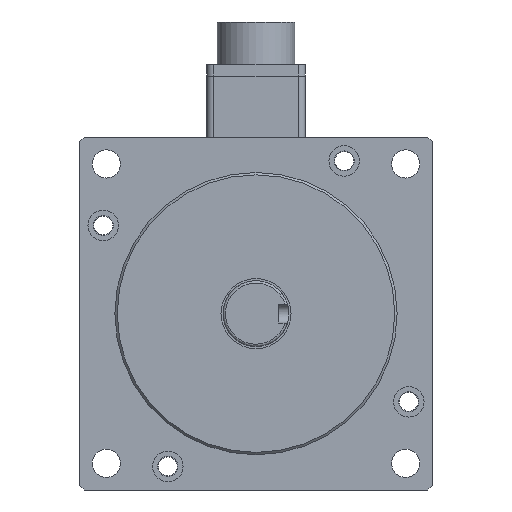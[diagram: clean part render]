
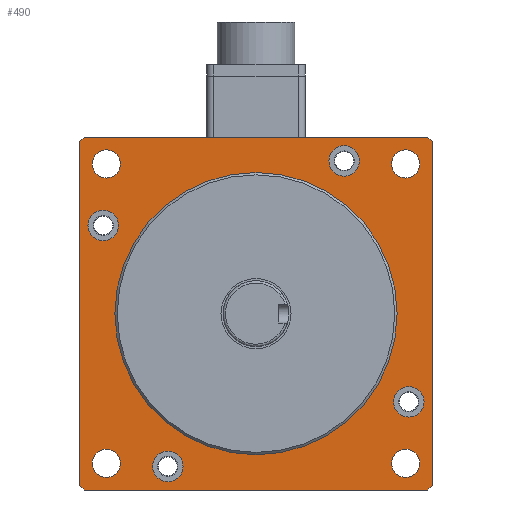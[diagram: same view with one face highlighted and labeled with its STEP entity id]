
A CAD part, front view. The second image highlights one B-rep face of the part: STEP entity #490.
In plain terms, the highlighted planar face has unit normal (0, -1, 0).
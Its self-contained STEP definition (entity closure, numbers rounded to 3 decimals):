
#83=FACE_BOUND('',#847,.T.);
#84=FACE_BOUND('',#848,.T.);
#85=FACE_BOUND('',#849,.T.);
#86=FACE_BOUND('',#850,.T.);
#87=FACE_BOUND('',#851,.T.);
#88=FACE_BOUND('',#852,.T.);
#89=FACE_BOUND('',#853,.T.);
#90=FACE_BOUND('',#854,.T.);
#91=FACE_BOUND('',#855,.T.);
#92=FACE_BOUND('',#856,.T.);
#340=CIRCLE('',#2864,6.);
#341=CIRCLE('',#2866,6.);
#342=CIRCLE('',#2868,6.);
#343=CIRCLE('',#2870,6.);
#346=CIRCLE('',#2875,60.);
#347=CIRCLE('',#2877,6.5);
#348=CIRCLE('',#2878,6.5);
#349=CIRCLE('',#2879,6.5);
#350=CIRCLE('',#2880,6.5);
#490=ADVANCED_FACE('',(#83,#84,#85,#86,#87,#88,#89,#90,#91,#92),#601,.T.);
#601=PLANE('',#2881);
#847=EDGE_LOOP('',(#1371));
#848=EDGE_LOOP('',(#1372));
#849=EDGE_LOOP('',(#1373));
#850=EDGE_LOOP('',(#1374));
#851=EDGE_LOOP('',(#1375));
#852=EDGE_LOOP('',(#1376));
#853=EDGE_LOOP('',(#1377));
#854=EDGE_LOOP('',(#1378));
#855=EDGE_LOOP('',(#1379));
#856=EDGE_LOOP('',(#1380,#1381,#1382,#1383,#1384,#1385,#1386,#1387));
#1371=ORIENTED_EDGE('',*,*,#2137,.T.);
#1372=ORIENTED_EDGE('',*,*,#2138,.T.);
#1373=ORIENTED_EDGE('',*,*,#2139,.T.);
#1374=ORIENTED_EDGE('',*,*,#2140,.T.);
#1375=ORIENTED_EDGE('',*,*,#2133,.T.);
#1376=ORIENTED_EDGE('',*,*,#2132,.T.);
#1377=ORIENTED_EDGE('',*,*,#2131,.T.);
#1378=ORIENTED_EDGE('',*,*,#2130,.T.);
#1379=ORIENTED_EDGE('',*,*,#2136,.T.);
#1380=ORIENTED_EDGE('',*,*,#2074,.F.);
#1381=ORIENTED_EDGE('',*,*,#2129,.T.);
#1382=ORIENTED_EDGE('',*,*,#2081,.F.);
#1383=ORIENTED_EDGE('',*,*,#2126,.T.);
#1384=ORIENTED_EDGE('',*,*,#2064,.F.);
#1385=ORIENTED_EDGE('',*,*,#2127,.T.);
#1386=ORIENTED_EDGE('',*,*,#2100,.F.);
#1387=ORIENTED_EDGE('',*,*,#2128,.T.);
#1775=VERTEX_POINT('',#4104);
#1776=VERTEX_POINT('',#4106);
#1783=VERTEX_POINT('',#4124);
#1784=VERTEX_POINT('',#4126);
#1789=VERTEX_POINT('',#4138);
#1790=VERTEX_POINT('',#4140);
#1803=VERTEX_POINT('',#4176);
#1804=VERTEX_POINT('',#4178);
#1812=VERTEX_POINT('',#4237);
#1813=VERTEX_POINT('',#4240);
#1814=VERTEX_POINT('',#4243);
#1815=VERTEX_POINT('',#4246);
#1818=VERTEX_POINT('',#4254);
#1819=VERTEX_POINT('',#4257);
#1820=VERTEX_POINT('',#4259);
#1821=VERTEX_POINT('',#4261);
#1822=VERTEX_POINT('',#4263);
#2064=EDGE_CURVE('',#1775,#1776,#2381,.T.);
#2074=EDGE_CURVE('',#1783,#1784,#2391,.T.);
#2081=EDGE_CURVE('',#1789,#1790,#2398,.T.);
#2100=EDGE_CURVE('',#1803,#1804,#2417,.T.);
#2126=EDGE_CURVE('',#1789,#1776,#2427,.T.);
#2127=EDGE_CURVE('',#1775,#1804,#2428,.T.);
#2128=EDGE_CURVE('',#1803,#1784,#2429,.T.);
#2129=EDGE_CURVE('',#1783,#1790,#2430,.T.);
#2130=EDGE_CURVE('',#1812,#1812,#340,.T.);
#2131=EDGE_CURVE('',#1813,#1813,#341,.T.);
#2132=EDGE_CURVE('',#1814,#1814,#342,.T.);
#2133=EDGE_CURVE('',#1815,#1815,#343,.T.);
#2136=EDGE_CURVE('',#1818,#1818,#346,.T.);
#2137=EDGE_CURVE('',#1819,#1819,#347,.T.);
#2138=EDGE_CURVE('',#1820,#1820,#348,.T.);
#2139=EDGE_CURVE('',#1821,#1821,#349,.T.);
#2140=EDGE_CURVE('',#1822,#1822,#350,.T.);
#2381=LINE('',#4105,#2591);
#2391=LINE('',#4125,#2601);
#2398=LINE('',#4139,#2608);
#2417=LINE('',#4177,#2627);
#2427=LINE('',#4228,#2637);
#2428=LINE('',#4230,#2638);
#2429=LINE('',#4232,#2639);
#2430=LINE('',#4234,#2640);
#2591=VECTOR('',#3304,1.);
#2601=VECTOR('',#3318,1.);
#2608=VECTOR('',#3327,1.);
#2627=VECTOR('',#3356,1.);
#2637=VECTOR('',#3432,1.);
#2638=VECTOR('',#3435,1.);
#2639=VECTOR('',#3438,1.);
#2640=VECTOR('',#3441,1.);
#2864=AXIS2_PLACEMENT_3D('',#4236,#3444,#3445);
#2866=AXIS2_PLACEMENT_3D('',#4239,#3448,#3449);
#2868=AXIS2_PLACEMENT_3D('',#4242,#3452,#3453);
#2870=AXIS2_PLACEMENT_3D('',#4245,#3456,#3457);
#2875=AXIS2_PLACEMENT_3D('',#4253,#3466,#3467);
#2877=AXIS2_PLACEMENT_3D('',#4256,#3470,#3471);
#2878=AXIS2_PLACEMENT_3D('',#4258,#3472,#3473);
#2879=AXIS2_PLACEMENT_3D('',#4260,#3474,#3475);
#2880=AXIS2_PLACEMENT_3D('',#4262,#3476,#3477);
#2881=AXIS2_PLACEMENT_3D('',#4264,#3478,#3479);
#3304=DIRECTION('',(0.,0.,1.));
#3318=DIRECTION('',(0.,0.,-1.));
#3327=DIRECTION('',(1.,0.,0.));
#3356=DIRECTION('',(-1.,0.,0.));
#3432=DIRECTION('',(-0.707,0.,-0.707));
#3435=DIRECTION('',(0.707,0.,-0.707));
#3438=DIRECTION('',(0.707,0.,0.707));
#3441=DIRECTION('',(-0.707,0.,0.707));
#3444=DIRECTION('',(0.,1.,0.));
#3445=DIRECTION('',(-1.,0.,0.));
#3448=DIRECTION('',(0.,1.,0.));
#3449=DIRECTION('',(0.,0.,1.));
#3452=DIRECTION('',(0.,1.,0.));
#3453=DIRECTION('',(1.,0.,0.));
#3456=DIRECTION('',(0.,1.,0.));
#3457=DIRECTION('',(0.,0.,-1.));
#3466=DIRECTION('',(0.,1.,0.));
#3467=DIRECTION('',(1.,0.,0.));
#3470=DIRECTION('',(0.,1.,0.));
#3471=DIRECTION('',(-1.,0.,0.));
#3472=DIRECTION('',(0.,1.,0.));
#3473=DIRECTION('',(0.,0.,1.));
#3474=DIRECTION('',(0.,1.,0.));
#3475=DIRECTION('',(1.,0.,0.));
#3476=DIRECTION('',(0.,1.,0.));
#3477=DIRECTION('',(0.,0.,-1.));
#3478=DIRECTION('',(0.,-1.,0.));
#3479=DIRECTION('',(1.,0.,0.));
#4104=CARTESIAN_POINT('',(325.074,-127.5,-335.));
#4105=CARTESIAN_POINT('',(325.074,-127.5,-262.));
#4106=CARTESIAN_POINT('',(325.074,-127.5,-189.));
#4124=CARTESIAN_POINT('',(475.074,-127.5,-189.));
#4125=CARTESIAN_POINT('',(475.074,-127.5,-262.));
#4126=CARTESIAN_POINT('',(475.074,-127.5,-335.));
#4138=CARTESIAN_POINT('',(327.074,-127.5,-187.));
#4139=CARTESIAN_POINT('',(400.074,-127.5,-187.));
#4140=CARTESIAN_POINT('',(473.074,-127.5,-187.));
#4176=CARTESIAN_POINT('',(473.074,-127.5,-337.));
#4177=CARTESIAN_POINT('',(400.074,-127.5,-337.));
#4178=CARTESIAN_POINT('',(327.074,-127.5,-337.));
#4228=CARTESIAN_POINT('',(326.074,-127.5,-188.));
#4230=CARTESIAN_POINT('',(326.074,-127.5,-336.));
#4232=CARTESIAN_POINT('',(474.074,-127.5,-336.));
#4234=CARTESIAN_POINT('',(474.074,-127.5,-188.));
#4236=CARTESIAN_POINT('',(463.714,-127.5,-198.36));
#4237=CARTESIAN_POINT('',(457.714,-127.5,-198.36));
#4239=CARTESIAN_POINT('',(463.714,-127.5,-325.64));
#4240=CARTESIAN_POINT('',(463.714,-127.5,-319.64));
#4242=CARTESIAN_POINT('',(336.435,-127.5,-325.64));
#4243=CARTESIAN_POINT('',(342.435,-127.5,-325.64));
#4245=CARTESIAN_POINT('',(336.435,-127.5,-198.36));
#4246=CARTESIAN_POINT('',(336.435,-127.5,-204.36));
#4253=CARTESIAN_POINT('',(400.074,-127.5,-262.));
#4254=CARTESIAN_POINT('',(460.074,-127.5,-262.));
#4256=CARTESIAN_POINT('',(362.574,-127.5,-326.952));
#4257=CARTESIAN_POINT('',(356.074,-127.5,-326.952));
#4258=CARTESIAN_POINT('',(335.123,-127.5,-224.5));
#4259=CARTESIAN_POINT('',(335.123,-127.5,-218.));
#4260=CARTESIAN_POINT('',(437.574,-127.5,-197.048));
#4261=CARTESIAN_POINT('',(444.074,-127.5,-197.048));
#4262=CARTESIAN_POINT('',(465.026,-127.5,-299.5));
#4263=CARTESIAN_POINT('',(465.026,-127.5,-306.));
#4264=CARTESIAN_POINT('',(400.074,-127.5,-262.));
